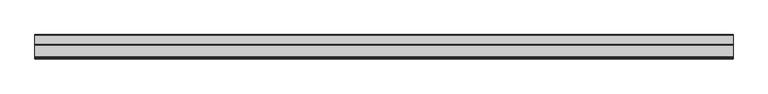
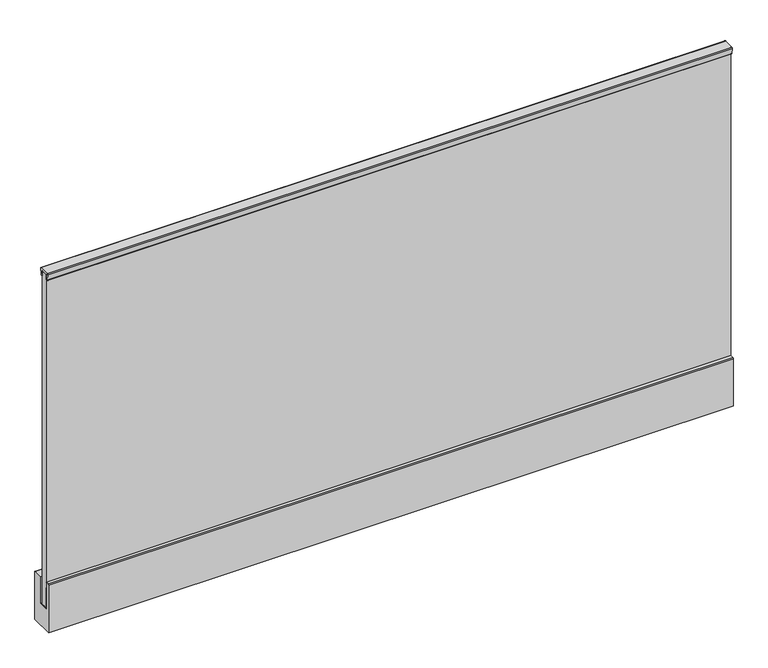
"""IFC4 building model written with IfcOpenShell, lengths in millimetres: railing geometry, Glass Railing (10+10) - Faraone - Ninfa 176 - Wall mounted - Trapez Handrail 42."""

from ifc_helpers import new_model, si_unit, point, frame, frame_2d, origin, place, context, project, spatial, polyline, circle_curve, trimmed, segment, composite_curve, outline, extrude, source, transform, mapped, element, save


def railing_111b7c1b(model_context):
    return source(origin(), model_context, "Body", "SweptSolid", [
        extrude(outline(composite_curve([segment(polyline([(-2781.9095811, 1109.56), (-2745.5530807, 1109.56)]), True, "CONTINUOUS"), segment(trimmed(circle_curve(frame_2d((-2745.5530807, 1106.5130839)), 3.0469161), [point((-2745.5530807, 1109.56))], [point((-2742.5360514, 1106.0873703))], False, "CARTESIAN"), True, "CONTINUOUS"), segment(polyline([(-2742.5360514, 1106.0873703), (-2745.3279492, 1086.3012064)]), True, "CONTINUOUS"), segment(trimmed(circle_curve(frame_2d((-2747.3320945, 1086.5839984)), 2.0239984), [point((-2745.3279492, 1086.3012064))], [point((-2747.3320945, 1084.56))], False, "CARTESIAN"), True, "CONTINUOUS"), segment(polyline([(-2747.3320945, 1084.56), (-2750.9813309, 1084.56), (-2750.9813309, 1102.56), (-2776.4813309, 1102.56), (-2776.4813309, 1084.56), (-2780.1305674, 1084.56)]), True, "CONTINUOUS"), segment(trimmed(circle_curve(frame_2d((-2780.1305674, 1086.5839984)), 2.0239984), [point((-2780.1305674, 1084.56))], [point((-2782.1347127, 1086.3012064))], False, "CARTESIAN"), True, "CONTINUOUS"), segment(polyline([(-2782.1347127, 1086.3012064), (-2784.9266105, 1106.0873703)]), True, "CONTINUOUS"), segment(trimmed(circle_curve(frame_2d((-2781.9095811, 1106.5130839)), 3.0469161), [point((-2784.9266105, 1106.0873703))], [point((-2781.9095811, 1109.56))], False, "CARTESIAN"), True, "CONTINUOUS")], self_intersect=False)), frame((4362.6376845, 0.0, 0.0), z_axis=(1.0, 0.0, 0.0), x_axis=(0.0, 1.0, 0.0)), (0.0, 0.0, 1.0), 2320.0),
        extrude(outline(polyline([(-2774.5113309, -92.36), (-2774.5113309, 1100.56), (-2764.2613309, 1100.56), (-2764.2613309, -91.56), (-2763.2613309, -91.56), (-2763.2613309, 1100.56), (-2753.0113309, 1100.56), (-2753.0113309, -92.36), (-2774.5113309, -92.36)])), frame((4362.6376845, 0.0, 0.0), z_axis=(1.0, 0.0, 0.0), x_axis=(0.0, 1.0, 0.0)), (0.0, 0.0, 1.0), 2320.0),
        extrude(outline(composite_curve([segment(polyline([(-2786.3839005, -0.0006325), (-2776.47946, -0.0006325), (-2776.47946, -95.3393625), (-2744.7032019, -95.3393625), (-2744.7032019, -0.0006325), (-2712.222466, -0.0006325)]), True, "CONTINUOUS"), segment(trimmed(circle_curve(frame_2d((-2712.222466, -3.0621312)), 3.0614987), [point((-2712.222466, -0.0006325))], [point((-2709.1609673, -3.0621312))], False, "CARTESIAN"), True, "CONTINUOUS"), segment(polyline([(-2709.1609673, -3.0621312), (-2709.1609673, -173.21), (-2789.5045007, -173.21), (-2789.5045007, -3.1212327)]), True, "CONTINUOUS"), segment(trimmed(circle_curve(frame_2d((-2786.3839005, -3.1212327)), 3.1206002), [point((-2789.5045007, -3.1212327))], [point((-2786.3839005, -0.0006325))], False, "CARTESIAN"), True, "CONTINUOUS")], self_intersect=False)), frame((4362.6376845, 0.0, 0.0), z_axis=(1.0, 0.0, 0.0), x_axis=(0.0, 1.0, 0.0)), (0.0, 0.0, 1.0), 2320.0),
        extrude(outline(polyline([(-2776.4832457, -95.34), (-2776.4832457, -20.1108016), (-2774.5092977, -20.1108016), (-2774.5092977, -92.3609041), (-2752.9994161, -92.3609041), (-2752.9994161, -95.34), (-2776.4832457, -95.34)])), frame((4362.6376845, 0.0, 0.0), z_axis=(1.0, 0.0, 0.0), x_axis=(0.0, 1.0, 0.0)), (0.0, 0.0, 1.0), 2320.0),
        extrude(outline(polyline([(4362.6376845, -2776.4813309), (4362.6376845, -2774.4813309), (6682.6376845, -2774.4813309), (6682.6376845, -2776.4813309), (4362.6376845, -2776.4813309)])), frame((0.0, 0.0, 1091.82), z_axis=(0.0, 0.0, 1.0), x_axis=(1.0, 0.0, 0.0)), (0.0, 0.0, 1.0), 10.74),
        extrude(outline(polyline([(4362.6376845, -2752.9813309), (4362.6376845, -2750.9813309), (6682.6376845, -2750.9813309), (6682.6376845, -2752.9813309), (4362.6376845, -2752.9813309)])), frame((0.0, 0.0, 1091.82), z_axis=(0.0, 0.0, 1.0), x_axis=(1.0, 0.0, 0.0)), (0.0, 0.0, 1.0), 10.74),
        extrude(outline(polyline([(4362.6376845, -2774.5613309), (4362.6376845, -2753.0613309), (6682.6376845, -2753.0613309), (6682.6376845, -2774.5613309), (4362.6376845, -2774.5613309)])), frame((0.0, 0.0, 1100.56), z_axis=(0.0, 0.0, 1.0), x_axis=(1.0, 0.0, 0.0)), (0.0, 0.0, 1.0), 2.0),
    ])


if __name__ == "__main__":
    model = new_model("IFC4")
    model_context = context("Model", 3, world=origin())
    ifc_project = project(units=[si_unit("LENGTHUNIT", "METRE", prefix="MILLI")], contexts=[model_context])
    site = spatial("IfcSite", under=ifc_project)
    building = spatial("IfcBuilding", under=site)
    placement = place(None, origin())
    railing_shape = railing_111b7c1b(model_context)
    element("IfcRailing", 1, ObjectType="Glass Railing (10+10) - Faraone - Ninfa 176 - Wall mounted - Trapez Handrail 42", at=placement, inside=building, context=model_context, shape_type="MappedRepresentation", body=[
        mapped(railing_shape, transform((0.0, 0.0, 0.0), x_axis=(1.0, 0.0, 0.0), y_axis=(0.0, 1.0, 0.0), z_axis=(0.0, 0.0, 1.0))),
    ])
    save(model, "model.ifc")
